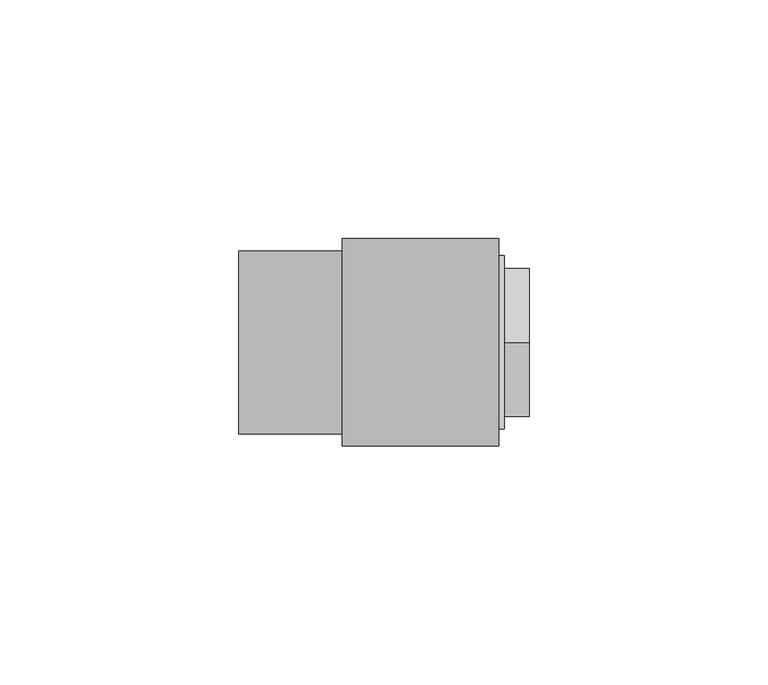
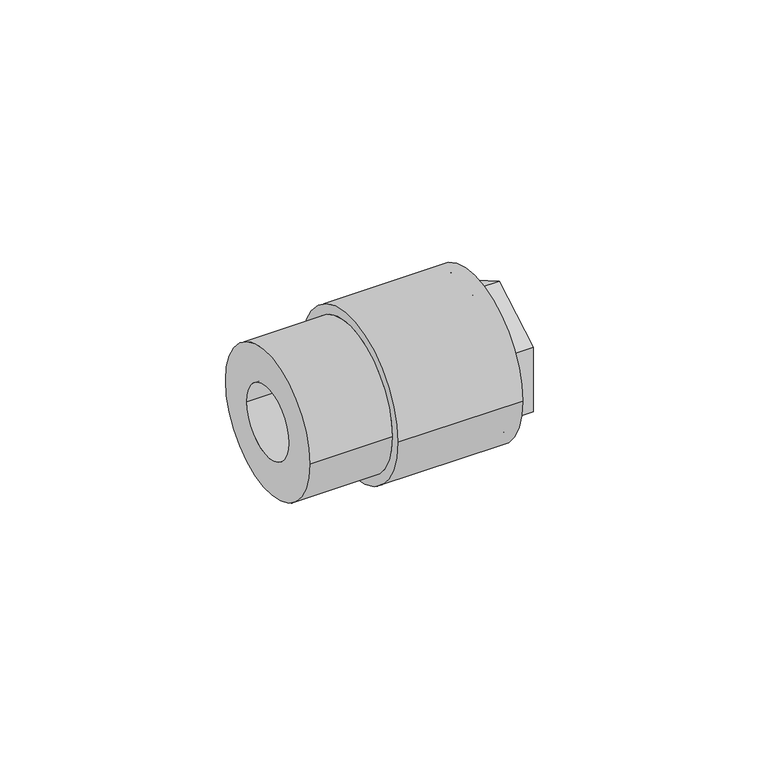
"""IFC4 building model written with IfcOpenShell, lengths in millimetres: pipe fitting geometry, Aquatherm - Fusion Outlet Transition Female : POTABLE BRASS - HEX."""

from ifc_helpers import new_model, si_unit, frame, origin, place, context, project, spatial, polyline, circle_curve, source, transform, mapped, element, save
from ifc_brep_helpers import plane_surface, cylinder_surface, revolved_surface, advanced_brep


def pipe_fitting_9095ef83(model_context):
    return source(origin(), model_context, "Body", "AdvancedBrep", [
        advanced_brep(
        [(25.62225, 12.7, 0.0), (25.62225, -12.7, 0.0), (36.5363125, -12.7, 0.0), (36.5363125, 12.7, 0.0), (25.62225, 13.49375, 0.0), (25.62225, -13.49375, 0.0), (22.44725, 13.49375, 0.0), (22.44725, -13.49375, 0.0), (22.44725, 9.525, 0.0), (22.44725, -9.525, 0.0), (19.27225, 9.525, 0.0), (19.27225, -9.525, 0.0), (19.27225, 19.177, 0.0), (19.27225, -19.177, 0.0), (32.766, 19.177, 0.0), (32.766, -19.177, 0.0), (39.116, 13.49375, 0.0), (39.116, -13.49375, 0.0), (39.116, -15.494, 0.0), (39.116, -15.494, -8.9454651), (39.116, 0.0, -17.8909301), (39.116, 15.494, -8.9454651), (39.116, 15.494, 0.0), (39.116, 15.494, 8.9454651), (39.116, 0.0, 17.8909301), (39.116, -15.494, 8.9454651), (32.766, 18.161, 0.0), (32.766, -18.161, 0.0), (33.956625, 18.161, 0.0), (33.956625, -18.161, 0.0), (33.956625, 0.0, -17.8909301), (33.956625, -15.494, -8.9454651), (33.956625, -15.494, 8.9454651), (33.956625, 0.0, 17.8909301), (33.956625, 15.494, 8.9454651), (33.956625, 15.494, -8.9454651)],
        [
            (0, 1, circle_curve(frame((25.62225, 0.0, 0.0), z_axis=(-1.0, 0.0, 0.0), x_axis=(0.0, -1.0, 0.0)), 12.7)),
            (1, 2),
            (2, 3, circle_curve(frame((36.5363125, 0.0, 0.0), z_axis=(1.0, 0.0, 0.0), x_axis=(0.0, -1.0, 0.0)), 12.7)),
            (3, 0),
            (1, 0, circle_curve(frame((25.62225, 0.0, 0.0), z_axis=(-1.0, 0.0, 0.0), x_axis=(0.0, -1.0, 0.0)), 12.7)),
            (3, 2, circle_curve(frame((36.5363125, 0.0, 0.0), z_axis=(1.0, 0.0, 0.0), x_axis=(0.0, -1.0, 0.0)), 12.7)),
            (0, 4),
            (4, 5, circle_curve(frame((25.62225, 0.0, 0.0), z_axis=(-1.0, 0.0, 0.0), x_axis=(0.0, -1.0, 0.0)), 13.49375)),
            (5, 1),
            (5, 4, circle_curve(frame((25.62225, 0.0, 0.0), z_axis=(-1.0, 0.0, 0.0), x_axis=(0.0, -1.0, 0.0)), 13.49375)),
            (4, 6),
            (6, 7, circle_curve(frame((22.44725, 0.0, 0.0), z_axis=(-1.0, 0.0, 0.0), x_axis=(0.0, -1.0, 0.0)), 13.49375)),
            (7, 5),
            (7, 6, circle_curve(frame((22.44725, 0.0, 0.0), z_axis=(-1.0, 0.0, 0.0), x_axis=(0.0, -1.0, 0.0)), 13.49375)),
            (6, 8),
            (8, 9, circle_curve(frame((22.44725, 0.0, 0.0), z_axis=(-1.0, 0.0, 0.0), x_axis=(0.0, -1.0, 0.0)), 9.525)),
            (9, 7),
            (9, 8, circle_curve(frame((22.44725, 0.0, 0.0), z_axis=(-1.0, 0.0, 0.0), x_axis=(0.0, -1.0, 0.0)), 9.525)),
            (8, 10),
            (10, 11, circle_curve(frame((19.27225, 0.0, 0.0), z_axis=(-1.0, 0.0, 0.0), x_axis=(0.0, -1.0, 0.0)), 9.525)),
            (11, 9),
            (11, 10, circle_curve(frame((19.27225, 0.0, 0.0), z_axis=(-1.0, 0.0, 0.0), x_axis=(0.0, -1.0, 0.0)), 9.525)),
            (10, 12),
            (12, 13, circle_curve(frame((19.27225, 0.0, 0.0), z_axis=(-1.0, 0.0, 0.0), x_axis=(0.0, -1.0, 0.0)), 19.177)),
            (13, 11),
            (13, 12, circle_curve(frame((19.27225, 0.0, 0.0), z_axis=(-1.0, 0.0, 0.0), x_axis=(0.0, -1.0, 0.0)), 19.177)),
            (12, 14),
            (14, 15, circle_curve(frame((32.766, 0.0, 0.0), z_axis=(-1.0, 0.0, 0.0), x_axis=(0.0, -1.0, 0.0)), 19.177)),
            (15, 13),
            (15, 14, circle_curve(frame((32.766, 0.0, 0.0), z_axis=(-1.0, 0.0, 0.0), x_axis=(0.0, -1.0, 0.0)), 19.177)),
            (16, 17, circle_curve(frame((39.116, 0.0, 0.0), z_axis=(-1.0, 0.0, 0.0), x_axis=(0.0, -1.0, 0.0)), 13.49375)),
            (17, 18),
            (18, 19),
            (19, 20),
            (20, 21),
            (21, 22),
            (22, 16),
            (17, 16, circle_curve(frame((39.116, 0.0, 0.0), z_axis=(-1.0, 0.0, 0.0), x_axis=(0.0, -1.0, 0.0)), 13.49375)),
            (22, 23),
            (23, 24),
            (24, 25),
            (25, 18),
            (2, 17),
            (16, 3),
            (14, 26),
            (26, 27, circle_curve(frame((32.766, 0.0, 0.0), z_axis=(-1.0, 0.0, 0.0), x_axis=(0.0, -1.0, 0.0)), 18.161)),
            (27, 15),
            (27, 26, circle_curve(frame((32.766, 0.0, 0.0), z_axis=(-1.0, 0.0, 0.0), x_axis=(0.0, -1.0, 0.0)), 18.161)),
            (26, 28),
            (28, 29, circle_curve(frame((33.956625, 0.0, 0.0), z_axis=(-1.0, 0.0, 0.0), x_axis=(0.0, -1.0, 0.0)), 18.161)),
            (29, 27),
            (29, 28, circle_curve(frame((33.956625, 0.0, 0.0), z_axis=(-1.0, 0.0, 0.0), x_axis=(0.0, -1.0, 0.0)), 18.161)),
            (30, 31),
            (31, 32),
            (32, 33),
            (33, 34),
            (34, 35),
            (35, 30),
            (35, 21),
            (20, 30),
            (34, 23),
            (33, 24),
            (32, 25),
            (31, 19),
        ],
        [
            revolved_surface(polyline([(36.5363125, -12.7, 0.0), (25.62225, -12.7, 0.0)]), (40.9492251, 0.0, 0.0), (1.0, 0.0, 0.0)),
            plane_surface(frame((25.62225, 0.0, 0.0), z_axis=(-1.0, 0.0, 0.0), x_axis=(0.0, -1.0, 0.0))),
            revolved_surface(polyline([(25.62225, -13.49375, 0.0), (22.44725, -13.49375, 0.0)]), (40.9492251, 0.0, 0.0), (1.0, 0.0, 0.0)),
            plane_surface(frame((22.44725, 0.0, 0.0), z_axis=(1.0, 0.0, 0.0), x_axis=(0.0, -1.0, 0.0))),
            revolved_surface(polyline([(22.44725, -9.525, 0.0), (19.27225, -9.525, 0.0)]), (40.9492251, 0.0, 0.0), (1.0, 0.0, 0.0)),
            plane_surface(frame((19.27225, 0.0, 0.0), z_axis=(-1.0, 0.0, 0.0), x_axis=(0.0, -1.0, 0.0))),
            cylinder_surface(frame((40.9492251, 0.0, 0.0), z_axis=(1.0, 0.0, 0.0), x_axis=(0.0, -1.0, 0.0)), 19.177),
            plane_surface(frame((39.116, 0.0, 0.0), z_axis=(1.0, 0.0, 0.0), x_axis=(0.0, -1.0, 0.0))),
            revolved_surface(polyline([(39.116, -13.49375, 0.0), (36.5363125, -12.7, 0.0)]), (40.9492251, 0.0, 0.0), (1.0, 0.0, 0.0)),
            plane_surface(frame((32.766, 0.0, 0.0), z_axis=(1.0, 0.0, 0.0), x_axis=(0.0, -1.0, 0.0))),
            cylinder_surface(frame((40.9492251, 0.0, 0.0), z_axis=(1.0, 0.0, 0.0), x_axis=(0.0, -1.0, 0.0)), 18.161),
            plane_surface(frame((33.956625, 15.494, -8.9454651), z_axis=(1.0000000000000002, 0.0, 0.0), x_axis=(0.0, 0.8660254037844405, 0.49999999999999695))),
            plane_surface(frame((33.956625, 0.0, -17.8909301), z_axis=(0.0, 0.49999999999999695, -0.8660254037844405), x_axis=(1.0, 0.0, 0.0))),
            plane_surface(frame((33.956625, 15.494, -8.9454651), z_axis=(0.0, 1.0, 0.0), x_axis=(1.0, 0.0, 0.0))),
            plane_surface(frame((33.956625, 15.494, 8.9454651), z_axis=(0.0, 0.5000000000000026, 0.8660254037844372), x_axis=(1.0, 0.0, 0.0))),
            plane_surface(frame((33.956625, 0.0, 17.8909301), z_axis=(0.0, -0.499999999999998, 0.8660254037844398), x_axis=(1.0, 0.0, 0.0))),
            plane_surface(frame((33.956625, -15.494, 8.9454651), z_axis=(0.0, -1.0, 0.0), x_axis=(1.0, 0.0, 0.0))),
            plane_surface(frame((33.956625, -15.494, -8.9454651), z_axis=(0.0, -0.5000000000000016, -0.8660254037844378), x_axis=(1.0, 0.0, 0.0))),
        ],
        [
            (0, [[1, 2, 3, 4]]),
            (0, [[-2, 5, -4, 6]]),
            (1, [[-1, 7, 8, 9]]),
            (1, [[-5, -9, 10, -7]]),
            (2, [[-8, 11, 12, 13]]),
            (2, [[-10, -13, 14, -11]]),
            (3, [[-12, 15, 16, 17]]),
            (3, [[-14, -17, 18, -15]]),
            (4, [[-16, 19, 20, 21]]),
            (4, [[-18, -21, 22, -19]]),
            (5, [[-20, 23, 24, 25]]),
            (5, [[-22, -25, 26, -23]]),
            (6, [[-24, 27, 28, 29]]),
            (6, [[-26, -29, 30, -27]]),
            (7, [[31, 32, 33, 34, 35, 36, 37]]),
            (7, [[38, -37, 39, 40, 41, 42, -32]]),
            (8, [[-3, 43, -31, 44]]),
            (8, [[-6, -44, -38, -43]]),
            (9, [[-28, 45, 46, 47]]),
            (9, [[-30, -47, 48, -45]]),
            (10, [[-46, 49, 50, 51]]),
            (10, [[-48, -51, 52, -49]]),
            (11, [[-50, -52], [53, 54, 55, 56, 57, 58]]),
            (12, [[-58, 59, -35, 60]]),
            (13, [[-57, 61, -39, -36, -59]]),
            (14, [[-56, 62, -40, -61]]),
            (15, [[-55, 63, -41, -62]]),
            (16, [[-54, 64, -33, -42, -63]]),
            (17, [[-53, -60, -34, -64]]),
        ],
    ),
        advanced_brep(
        [(-21.6243243, 19.177, 0.0), (-21.6243243, -19.177, 0.0), (-21.6243243, 9.525, 0.0), (-21.6243243, -9.525, 0.0), (19.27225, 19.177, 0.0), (19.27225, -19.177, 0.0), (19.27225, 9.525, 0.0), (19.27225, -9.525, 0.0), (0.0, 19.177, 0.0), (0.0, -19.177, 0.0), (32.766, 21.717, 0.0), (32.766, -21.717, 0.0), (32.766, 19.177, 0.0), (32.766, -19.177, 0.0), (0.0, 21.717, 0.0), (0.0, -21.717, 0.0)],
        [
            (0, 1, circle_curve(frame((-21.6243243, 0.0, 0.0), z_axis=(-1.0, 0.0, 0.0), x_axis=(0.0, -1.0, 0.0)), 19.177)),
            (1, 0, circle_curve(frame((-21.6243243, 0.0, 0.0), z_axis=(-1.0, 0.0, 0.0), x_axis=(0.0, -1.0, 0.0)), 19.177)),
            (2, 3, circle_curve(frame((-21.6243243, 0.0, 0.0), z_axis=(1.0, 0.0, 0.0), x_axis=(0.0, -1.0, 0.0)), 9.525)),
            (3, 2, circle_curve(frame((-21.6243243, 0.0, 0.0), z_axis=(1.0, 0.0, 0.0), x_axis=(0.0, -1.0, 0.0)), 9.525)),
            (4, 5, circle_curve(frame((19.27225, 0.0, 0.0), z_axis=(1.0, 0.0, 0.0), x_axis=(0.0, -1.0, 0.0)), 19.177)),
            (5, 4, circle_curve(frame((19.27225, 0.0, 0.0), z_axis=(1.0, 0.0, 0.0), x_axis=(0.0, -1.0, 0.0)), 19.177)),
            (6, 7, circle_curve(frame((19.27225, 0.0, 0.0), z_axis=(-1.0, 0.0, 0.0), x_axis=(0.0, -1.0, 0.0)), 9.525)),
            (7, 6, circle_curve(frame((19.27225, 0.0, 0.0), z_axis=(-1.0, 0.0, 0.0), x_axis=(0.0, -1.0, 0.0)), 9.525)),
            (2, 6),
            (7, 3),
            (0, 8),
            (8, 9, circle_curve(frame((0.0, 0.0, 0.0), z_axis=(-1.0, 0.0, 0.0), x_axis=(0.0, -1.0, 0.0)), 19.177)),
            (9, 1),
            (9, 8, circle_curve(frame((0.0, 0.0, 0.0), z_axis=(-1.0, 0.0, 0.0), x_axis=(0.0, -1.0, 0.0)), 19.177)),
            (10, 11, circle_curve(frame((32.766, 0.0, 0.0), z_axis=(1.0, 0.0, 0.0), x_axis=(0.0, -1.0, 0.0)), 21.717)),
            (11, 10, circle_curve(frame((32.766, 0.0, 0.0), z_axis=(1.0, 0.0, 0.0), x_axis=(0.0, -1.0, 0.0)), 21.717)),
            (12, 13, circle_curve(frame((32.766, 0.0, 0.0), z_axis=(-1.0, 0.0, 0.0), x_axis=(0.0, -1.0, 0.0)), 19.177)),
            (13, 12, circle_curve(frame((32.766, 0.0, 0.0), z_axis=(-1.0, 0.0, 0.0), x_axis=(0.0, -1.0, 0.0)), 19.177)),
            (14, 15, circle_curve(frame((0.0, 0.0, 0.0), z_axis=(-1.0, 0.0, 0.0), x_axis=(0.0, -1.0, 0.0)), 21.717)),
            (15, 14, circle_curve(frame((0.0, 0.0, 0.0), z_axis=(-1.0, 0.0, 0.0), x_axis=(0.0, -1.0, 0.0)), 21.717)),
            (13, 5),
            (4, 12),
            (11, 15),
            (14, 10),
        ],
        [
            plane_surface(frame((-21.6243243, -9.525, 0.0), z_axis=(-1.0, 0.0, 0.0), x_axis=(0.0, 0.0, -1.0))),
            plane_surface(frame((19.27225, -9.525, 0.0), z_axis=(1.0, 0.0, 0.0), x_axis=(0.0, 0.0, 1.0))),
            revolved_surface(polyline([(19.27225, -9.525, 0.0), (-21.624324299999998, -9.525, 0.0)]), (19.27225, 0.0, 0.0), (1.0, 0.0, 0.0)),
            cylinder_surface(frame((0.0, 0.0, 0.0), z_axis=(-1.0, 0.0, 0.0), x_axis=(0.0, -1.0, 0.0)), 19.177),
            plane_surface(frame((32.766, -19.177, 0.0), z_axis=(1.0, 0.0, 0.0), x_axis=(0.0, 0.0, 1.0))),
            plane_surface(frame((0.0, -19.177, 0.0), z_axis=(-1.0, 0.0, 0.0), x_axis=(0.0, 0.0, -1.0))),
            revolved_surface(polyline([(32.766, -19.177, 0.0), (19.27225, -19.177, 0.0)]), (32.766, 0.0, 0.0), (1.0, 0.0, 0.0)),
            cylinder_surface(frame((0.0, 0.0, 0.0), z_axis=(-1.0, 0.0, 0.0), x_axis=(0.0, -1.0, 0.0)), 21.717),
        ],
        [
            (0, [[1, 2], [3, 4]]),
            (1, [[5, 6], [7, 8]]),
            (2, [[-3, 9, -8, 10]]),
            (2, [[-4, -10, -7, -9]]),
            (3, [[-1, 11, 12, 13]]),
            (3, [[-2, -13, 14, -11]]),
            (4, [[15, 16], [17, 18]]),
            (5, [[19, 20], [-12, -14]]),
            (6, [[-18, 21, -5, 22]]),
            (6, [[-17, -22, -6, -21]]),
            (7, [[-16, 23, -19, 24]]),
            (7, [[-15, -24, -20, -23]]),
        ],
    ),
    ])


if __name__ == "__main__":
    model = new_model("IFC4")
    model_context = context("Model", 3, world=origin())
    ifc_project = project(units=[si_unit("LENGTHUNIT", "METRE", prefix="MILLI")], contexts=[model_context])
    site = spatial("IfcSite", under=ifc_project)
    building = spatial("IfcBuilding", under=site)
    placement = place(None, origin())
    pipe_fitting_shape = pipe_fitting_9095ef83(model_context)
    element("IfcPipeFitting", 1, ObjectType="Aquatherm - Fusion Outlet Transition Female : POTABLE BRASS - HEX", at=placement, inside=building, context=model_context, shape_type="MappedRepresentation", body=[
        mapped(pipe_fitting_shape, transform((0.0, 0.0, 0.0), x_axis=(1.0, 0.0, 0.0), y_axis=(0.0, 1.0, 0.0), z_axis=(0.0, 0.0, 1.0))),
    ])
    save(model, "model.ifc")
